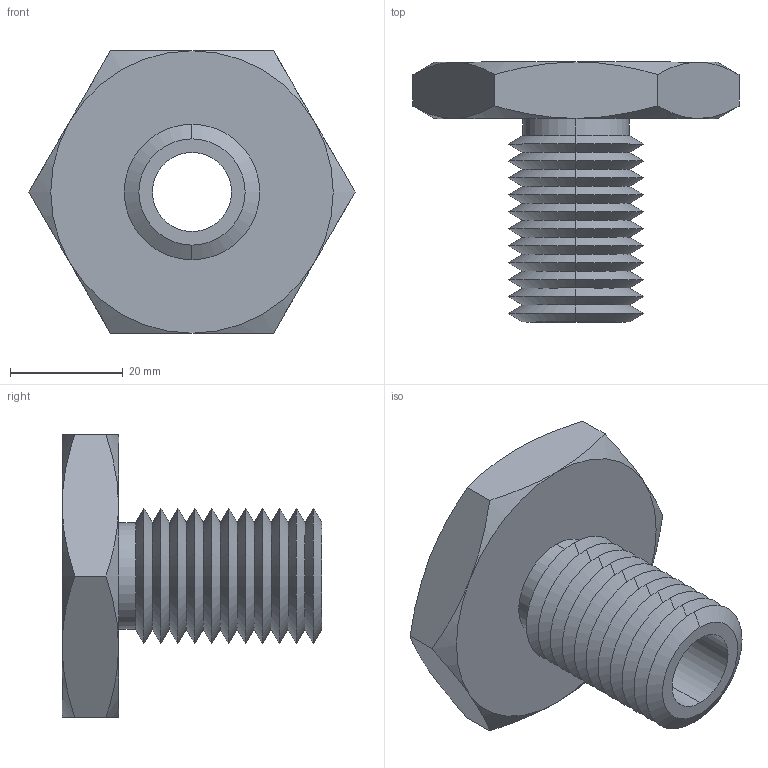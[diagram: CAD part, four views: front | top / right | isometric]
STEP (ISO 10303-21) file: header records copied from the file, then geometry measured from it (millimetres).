
FILE_DESCRIPTION (( 'STEP AP203' ), '1' );
FILE_NAME ('63302.W0024_M14x2.step', '2013-12-08T11:03:11', ( 'User' ), ( '' ), 'SwSTEP 2.0', 'SolidWorks 2009', '' );
FILE_SCHEMA (( 'CONFIG_CONTROL_DESIGN' ));
Length unit declared in the file: millimetre
Products named in the file (1): 63302.W0024_M14x2
Bounding box: 57.73 x 46 x 50 mm (x, y, z)
Volume: 26964.6 mm3; surface area: 12143 mm2
Topology: 1 solids, 1 shells, 71 faces, 146 edges, 78 vertices
Faces by surface type: cone 58, plane 9, cylinder 4
Entity records: 2039 total; most frequent: CARTESIAN_POINT 480, DIRECTION 332, ORIENTED_EDGE 292, EDGE_CURVE 146, AXIS2_PLACEMENT_3D 138, VERTEX_POINT 78, EDGE_LOOP 74, ADVANCED_FACE 71
